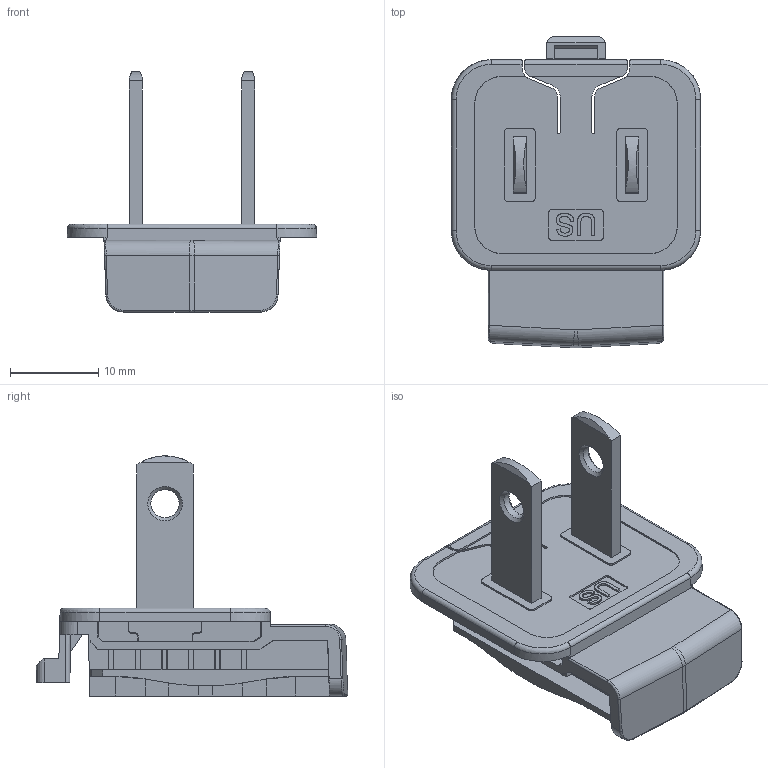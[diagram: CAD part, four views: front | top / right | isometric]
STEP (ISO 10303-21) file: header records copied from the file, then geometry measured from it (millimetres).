
FILE_DESCRIPTION(/* description */ (''),/* implementation_level */ '2;1');
FILE_NAME(/* name */ 'C:\作業區\插頭\5OE0004601H8.stp',/* time_stamp */ '2019-11-06T17:06:22+08:00',/* author */ ('user'),/* organization */ (''),/* preprocessor_version */ 'ST-DEVELOPER v16.1',/* originating_system */ 'Autodesk Inventor 2016',/* authorisation */ '');
FILE_SCHEMA (('AUTOMOTIVE_DESIGN { 1 0 10303 214 3 1 1 }'));
Length unit declared in the file: millimetre
Products named in the file (4): PRT0003_ANY_3_1_1; PRT0004_US; PRT0005_US; 5OE0004601H8
Assembly tree (3 placements, depth 2):
  5OE0004601H8
    PRT0003_ANY_3_1_1
    PRT0004_US
    PRT0005_US
Bounding box: 28.2 x 35.2 x 27.14 mm (x, y, z)
Volume: 3171.1 mm3; surface area: 5322.6 mm2
Topology: 3 solids, 3 shells, 709 faces, 2063 edges, 1363 vertices
Faces by surface type: plane 591, cylinder 72, cone 36, bspline 6, torus 4
Full cylindrical faces by diameter (mm): 3.2 x2
Entity records: 23780 total; most frequent: CARTESIAN_POINT 4935, ORIENTED_EDGE 4110, DIRECTION 3610, EDGE_CURVE 2055, LINE 1786, VECTOR 1786, VERTEX_POINT 1361, AXIS2_PLACEMENT_3D 912
